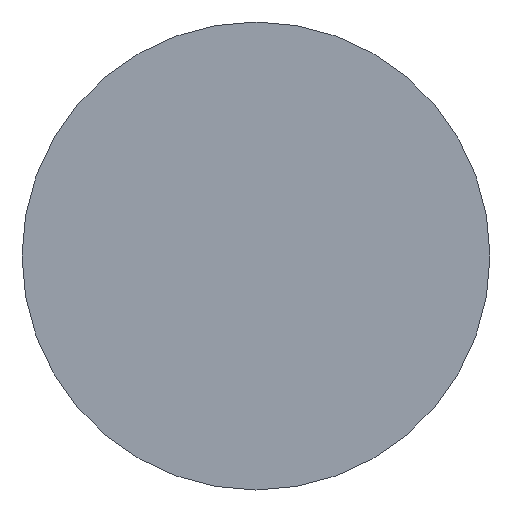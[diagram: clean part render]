
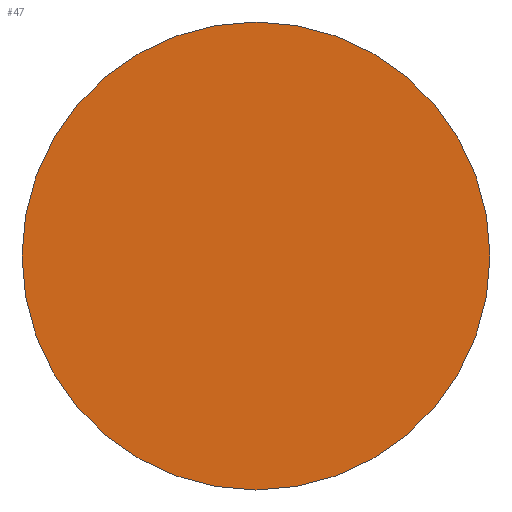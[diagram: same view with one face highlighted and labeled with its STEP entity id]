
A CAD part, left-side view. The second image highlights one B-rep face of the part: STEP entity #47.
In plain terms, the highlighted planar face has unit normal (-1, 0, 0).
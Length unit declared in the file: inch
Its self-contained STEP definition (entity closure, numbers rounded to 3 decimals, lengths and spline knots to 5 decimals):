
#16=PLANE('',#55);
#22=FACE_OUTER_BOUND('',#25,.T.);
#25=EDGE_LOOP('',(#43));
#28=CIRCLE('',#54,0.15625);
#31=VERTEX_POINT('',#78);
#34=EDGE_CURVE('',#31,#31,#28,.T.);
#43=ORIENTED_EDGE('',*,*,#34,.T.);
#47=ADVANCED_FACE('',(#22),#16,.T.);
#54=AXIS2_PLACEMENT_3D('',#79,#66,#67);
#55=AXIS2_PLACEMENT_3D('',#81,#69,#70);
#66=DIRECTION('center_axis',(-1.,0.,0.));
#67=DIRECTION('ref_axis',(0.,0.,-1.));
#69=DIRECTION('center_axis',(-1.,0.,0.));
#70=DIRECTION('ref_axis',(0.,0.,-1.));
#78=CARTESIAN_POINT('',(30.68618,13.51108,0.15625));
#79=CARTESIAN_POINT('Origin',(30.68618,13.51108,0.));
#81=CARTESIAN_POINT('Origin',(30.68618,13.51108,0.));
